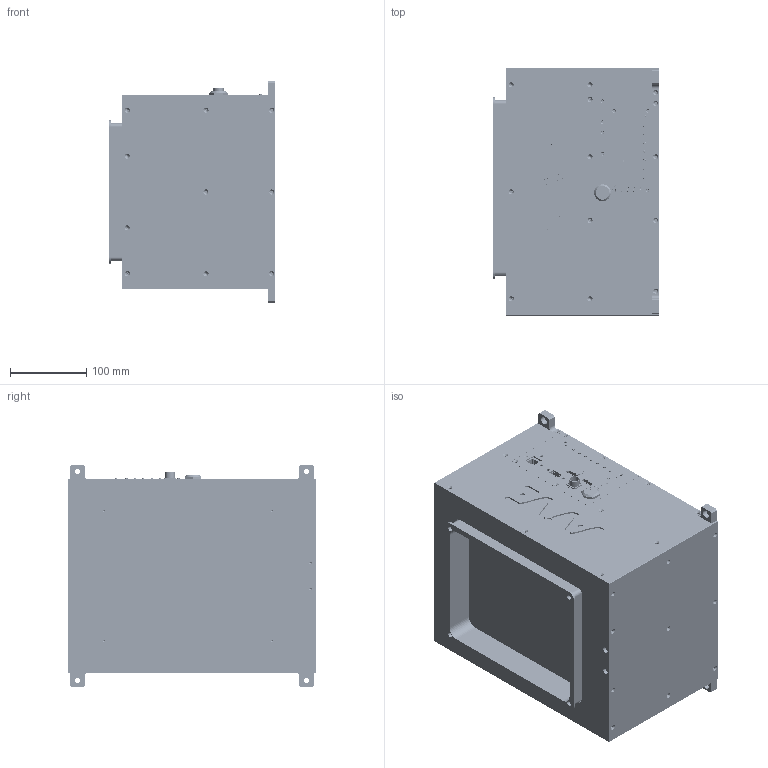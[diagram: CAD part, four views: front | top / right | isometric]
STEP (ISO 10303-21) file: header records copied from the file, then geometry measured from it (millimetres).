
FILE_DESCRIPTION(/* description */ (''),/* implementation_level */ '2;1');
FILE_NAME(/* name */ 'F:\OneDrive\3.설계,도면\1.AIVE\Workspaces\작업공간\AIVE3.0\AIVE3.0_L(Standard).stp',/* time_stamp */ '2021-04-05T21:40:54+09:00',/* author */ ('houns'),/* organization */ (''),/* preprocessor_version */ 'ST-DEVELOPER v18',/* originating_system */ 'Autodesk Inventor 2020',/* authorisation */ '');
FILE_SCHEMA (('AUTOMOTIVE_DESIGN { 1 0 10303 214 3 1 1 }'));
Products named in the file (55): AIVE3.0_L(Standard); AV3.0_03_Middle plate_2225_r2; Column; Base plate; Rear cover; Top cover; Logo side bracket_1215; AV16_PCB bracket; Spring; Lamp; Right side cover; Left side cover; Rear cover_1; cONTROLLER; AV13_Operation panel_1215; 파워버튼; PRC커넥터; USB 포트; RJ45 포트; AV13_Operation panel2; LM bearing; LM bearing_1; SEBS10-55_r; SEBS10_b; AV3.0_16_LM block; SSEB10-55; SSEB10-55_r; SSEB10_b; Basket bracket_R3; Basket bracket_R2; Basket bracket_R2_1; Basket bracket_R2_2; Basket bracket_R2_3; AV3.0_16_Basket2018_볼트용; Motor drive; VPD-101_V300_Amplifier_______; CLP-125-02-L-D_______; _CLP-125-2-L-D_terminal_______; _C-106-22-125_Pin_______; SM05B-GHS-TB_______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
Assembly tree (86 placements, depth 4):
  AIVE3.0_L(Standard)
    AV3.0_03_Middle plate_2225_r2
    Column  x4
    Base plate
    Rear cover
    Top cover
    Rear cover_1  x2
    Logo side bracket_1215  x2
    AV16_PCB bracket
    Spring  x2
    Lamp
    Right side cover
    Left side cover
    cONTROLLER
      AV13_Operation panel_1215
      파워버튼
      PRC커넥터
      USB 포트
      RJ45 포트
    AV13_Operation panel2
    LM bearing
      SEBS10-55_r
      SEBS10_b
    AV3.0_16_LM block  x2
    LM bearing_1
      SEBS10-55_r
      SEBS10_b
    SSEB10-55
      SSEB10-55_r
      SSEB10_b
    Basket bracket_R3
      Basket bracket_R2_3  x4
      Basket bracket_R2_2  x2
      Basket bracket_R2
      Basket bracket_R2_1
    AV3.0_16_Basket2018_볼트용  x4
    Motor drive
      VPD-101_V300_Amplifier_______
      CLP-125-02-L-D_______
        _CLP-125-2-L-D_terminal_______
        _C-106-22-125_Pin_______  x2
      SM04B-GHS-TB_______  x2
      SM05B-GHS-TB_______
      SM08B-GHS-TB_______
      SM10B-GHS-TB  x2
      VPD-101_V300_Controller_______
      1803277_______
      1803303_______
      USB_______
      Spacer  x8
      Bush  x4
      hexagon socket head cap screw_jis_JIS B 1176 M3 x 6 (6) --N  x4
      AV3.0_10_Board bracket
      조립품10
        파트5
        1803594
    Basket2018_191128
Bounding box: 218.5 x 324 x 290 mm (x, y, z)
Volume: 3166847 mm3; surface area: 1376049.7 mm2
Topology: 100 solids, 100 shells, 8194 faces, 22505 edges, 15124 vertices
Faces by surface type: plane 5381, bspline 1432, cylinder 1118, cone 199, torus 53, sphere 11
Full cylindrical faces by diameter (mm): 0.2 x12, 0.3 x12, 0.457 x3, 0.9 x2, 1 x6, 1.2 x14, 1.25 x7, 1.567 x12, 1.6 x8, 2 x4, 2.2 x4, 2.459 x96, 2.5 x20, 2.8 x4, 2.9 x4, 3 x73, 3.2 x13, 3.242 x6, 3.3 x32, 3.4 x56, 3.5 x13, 3.6 x8, 4.134 x8, 4.4 x4, 4.5 x3, 5 x5, 5.5 x12, 6 x41, 6.5 x14, 6.78 x1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
Entity records: 237303 total; most frequent: CARTESIAN_POINT 59132, ORIENTED_EDGE 38504, DIRECTION 30467, EDGE_CURVE 19252, LINE 13643, VECTOR 13643, VERTEX_POINT 12992, AXIS2_PLACEMENT_3D 8412
